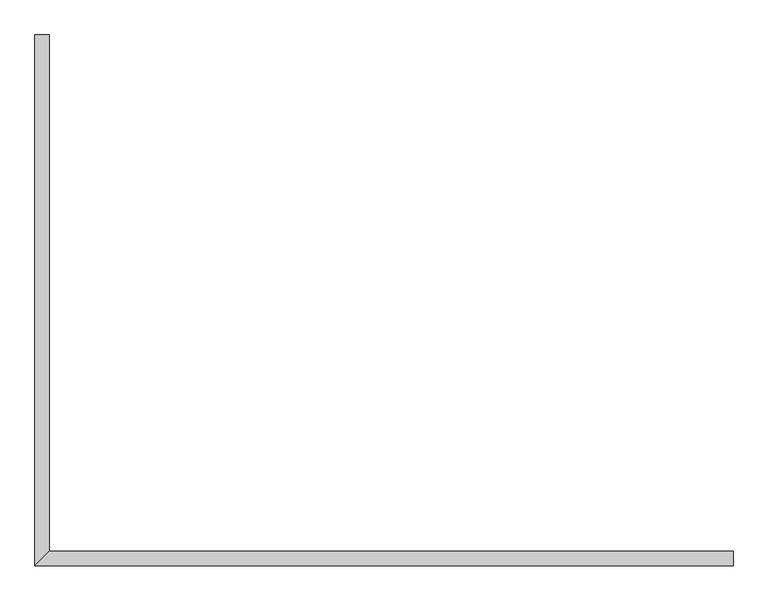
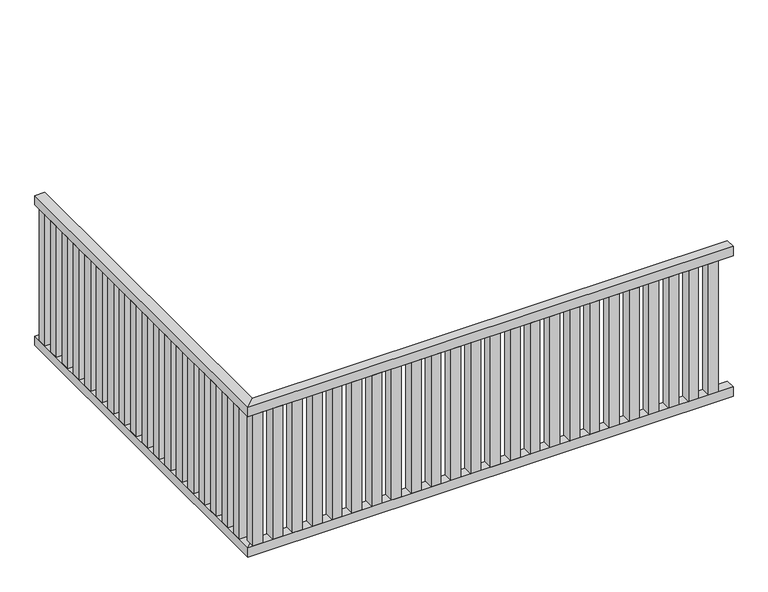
"""IFC4 building model written with IfcOpenShell, lengths in millimetres: railing geometry, creole porch rail."""

from ifc_helpers import new_model, si_unit, frame, origin, place, context, project, spatial, polyline, outline, extrude, faceted_brep, source, transform, mapped, element, save


def railing_5c745c90(model_context):
    return source(origin(), model_context, "Body", "SolidModel", [
        faceted_brep([(16886.7169554, -7091.5869756, 1981.2), (16886.7169554, -7142.3869756, 1981.2), (16886.7169554, -7142.3869756, 1930.4), (16886.7169554, -7091.5869756, 1930.4), (14448.3169554, -7091.5869756, 1981.2), (14397.5169554, -7142.3869756, 1981.2), (14397.5169554, -7142.3869756, 1930.4), (14448.3169554, -7091.5869756, 1930.4), (14448.3169554, -5250.0869756, 1981.2), (14448.3169554, -5250.0869756, 1930.4), (14397.5169554, -5250.0869756, 1930.4), (14397.5169554, -5250.0869756, 1981.2)], [[[0, 1, 2, 3]], [[1, 0, 4, 5]], [[2, 1, 5, 6]], [[3, 2, 6, 7]], [[0, 3, 7, 4]], [[8, 9, 10, 11]], [[5, 4, 8, 11]], [[6, 5, 11, 10]], [[7, 6, 10, 9]], [[4, 7, 9, 8]]]),
        faceted_brep([(16886.7169554, -7091.5869756, 1219.2), (16886.7169554, -7142.3869756, 1219.2), (16886.7169554, -7142.3869756, 1168.4), (16886.7169554, -7091.5869756, 1168.4), (14448.3169554, -7091.5869756, 1219.2), (14397.5169554, -7142.3869756, 1219.2), (14397.5169554, -7142.3869756, 1168.4), (14448.3169554, -7091.5869756, 1168.4), (14448.3169554, -5250.0869756, 1219.2), (14448.3169554, -5250.0869756, 1168.4), (14397.5169554, -5250.0869756, 1168.4), (14397.5169554, -5250.0869756, 1219.2)], [[[0, 1, 2, 3]], [[1, 0, 4, 5]], [[2, 1, 5, 6]], [[3, 2, 6, 7]], [[0, 3, 7, 4]], [[8, 9, 10, 11]], [[5, 4, 8, 11]], [[6, 5, 11, 10]], [[7, 6, 10, 9]], [[4, 7, 9, 8]]]),
        extrude(outline(polyline([(14448.3169554, -5338.9869756), (14397.5169554, -5338.9869756), (14397.5169554, -5288.1869756), (14448.3169554, -5288.1869756), (14448.3169554, -5338.9869756)])), frame((0.0, 0.0, 1219.2), z_axis=(0.0, 0.0, 1.0), x_axis=(1.0, 0.0, 0.0)), (0.0, 0.0, 1.0), 711.2),
        extrude(outline(polyline([(14448.3169554, -5440.5869756), (14397.5169554, -5440.5869756), (14397.5169554, -5389.7869756), (14448.3169554, -5389.7869756), (14448.3169554, -5440.5869756)])), frame((0.0, 0.0, 1219.2), z_axis=(0.0, 0.0, 1.0), x_axis=(1.0, 0.0, 0.0)), (0.0, 0.0, 1.0), 711.2),
        extrude(outline(polyline([(14448.3169554, -5542.1869756), (14397.5169554, -5542.1869756), (14397.5169554, -5491.3869756), (14448.3169554, -5491.3869756), (14448.3169554, -5542.1869756)])), frame((0.0, 0.0, 1219.2), z_axis=(0.0, 0.0, 1.0), x_axis=(1.0, 0.0, 0.0)), (0.0, 0.0, 1.0), 711.2),
        extrude(outline(polyline([(14448.3169554, -5643.7869756), (14397.5169554, -5643.7869756), (14397.5169554, -5592.9869756), (14448.3169554, -5592.9869756), (14448.3169554, -5643.7869756)])), frame((0.0, 0.0, 1219.2), z_axis=(0.0, 0.0, 1.0), x_axis=(1.0, 0.0, 0.0)), (0.0, 0.0, 1.0), 711.2),
        extrude(outline(polyline([(14448.3169554, -5745.3869756), (14397.5169554, -5745.3869756), (14397.5169554, -5694.5869756), (14448.3169554, -5694.5869756), (14448.3169554, -5745.3869756)])), frame((0.0, 0.0, 1219.2), z_axis=(0.0, 0.0, 1.0), x_axis=(1.0, 0.0, 0.0)), (0.0, 0.0, 1.0), 711.2),
        extrude(outline(polyline([(14448.3169554, -5846.9869756), (14397.5169554, -5846.9869756), (14397.5169554, -5796.1869756), (14448.3169554, -5796.1869756), (14448.3169554, -5846.9869756)])), frame((0.0, 0.0, 1219.2), z_axis=(0.0, 0.0, 1.0), x_axis=(1.0, 0.0, 0.0)), (0.0, 0.0, 1.0), 711.2),
        extrude(outline(polyline([(14448.3169554, -5948.5869756), (14397.5169554, -5948.5869756), (14397.5169554, -5897.7869756), (14448.3169554, -5897.7869756), (14448.3169554, -5948.5869756)])), frame((0.0, 0.0, 1219.2), z_axis=(0.0, 0.0, 1.0), x_axis=(1.0, 0.0, 0.0)), (0.0, 0.0, 1.0), 711.2),
        extrude(outline(polyline([(14448.3169554, -6050.1869756), (14397.5169554, -6050.1869756), (14397.5169554, -5999.3869756), (14448.3169554, -5999.3869756), (14448.3169554, -6050.1869756)])), frame((0.0, 0.0, 1219.2), z_axis=(0.0, 0.0, 1.0), x_axis=(1.0, 0.0, 0.0)), (0.0, 0.0, 1.0), 711.2),
        extrude(outline(polyline([(14448.3169554, -6151.7869756), (14397.5169554, -6151.7869756), (14397.5169554, -6100.9869756), (14448.3169554, -6100.9869756), (14448.3169554, -6151.7869756)])), frame((0.0, 0.0, 1219.2), z_axis=(0.0, 0.0, 1.0), x_axis=(1.0, 0.0, 0.0)), (0.0, 0.0, 1.0), 711.2),
        extrude(outline(polyline([(14448.3169554, -6253.3869756), (14397.5169554, -6253.3869756), (14397.5169554, -6202.5869756), (14448.3169554, -6202.5869756), (14448.3169554, -6253.3869756)])), frame((0.0, 0.0, 1219.2), z_axis=(0.0, 0.0, 1.0), x_axis=(1.0, 0.0, 0.0)), (0.0, 0.0, 1.0), 711.2),
        extrude(outline(polyline([(14448.3169554, -6354.9869756), (14397.5169554, -6354.9869756), (14397.5169554, -6304.1869756), (14448.3169554, -6304.1869756), (14448.3169554, -6354.9869756)])), frame((0.0, 0.0, 1219.2), z_axis=(0.0, 0.0, 1.0), x_axis=(1.0, 0.0, 0.0)), (0.0, 0.0, 1.0), 711.2),
        extrude(outline(polyline([(14448.3169554, -6456.5869756), (14397.5169554, -6456.5869756), (14397.5169554, -6405.7869756), (14448.3169554, -6405.7869756), (14448.3169554, -6456.5869756)])), frame((0.0, 0.0, 1219.2), z_axis=(0.0, 0.0, 1.0), x_axis=(1.0, 0.0, 0.0)), (0.0, 0.0, 1.0), 711.2),
        extrude(outline(polyline([(14448.3169554, -6558.1869756), (14397.5169554, -6558.1869756), (14397.5169554, -6507.3869756), (14448.3169554, -6507.3869756), (14448.3169554, -6558.1869756)])), frame((0.0, 0.0, 1219.2), z_axis=(0.0, 0.0, 1.0), x_axis=(1.0, 0.0, 0.0)), (0.0, 0.0, 1.0), 711.2),
        extrude(outline(polyline([(14448.3169554, -6659.7869756), (14397.5169554, -6659.7869756), (14397.5169554, -6608.9869756), (14448.3169554, -6608.9869756), (14448.3169554, -6659.7869756)])), frame((0.0, 0.0, 1219.2), z_axis=(0.0, 0.0, 1.0), x_axis=(1.0, 0.0, 0.0)), (0.0, 0.0, 1.0), 711.2),
        extrude(outline(polyline([(14448.3169554, -6761.3869756), (14397.5169554, -6761.3869756), (14397.5169554, -6710.5869756), (14448.3169554, -6710.5869756), (14448.3169554, -6761.3869756)])), frame((0.0, 0.0, 1219.2), z_axis=(0.0, 0.0, 1.0), x_axis=(1.0, 0.0, 0.0)), (0.0, 0.0, 1.0), 711.2),
        extrude(outline(polyline([(14448.3169554, -6862.9869756), (14397.5169554, -6862.9869756), (14397.5169554, -6812.1869756), (14448.3169554, -6812.1869756), (14448.3169554, -6862.9869756)])), frame((0.0, 0.0, 1219.2), z_axis=(0.0, 0.0, 1.0), x_axis=(1.0, 0.0, 0.0)), (0.0, 0.0, 1.0), 711.2),
        extrude(outline(polyline([(14448.3169554, -6964.5869756), (14397.5169554, -6964.5869756), (14397.5169554, -6913.7869756), (14448.3169554, -6913.7869756), (14448.3169554, -6964.5869756)])), frame((0.0, 0.0, 1219.2), z_axis=(0.0, 0.0, 1.0), x_axis=(1.0, 0.0, 0.0)), (0.0, 0.0, 1.0), 711.2),
        extrude(outline(polyline([(14448.3169554, -7066.1869756), (14397.5169554, -7066.1869756), (14397.5169554, -7015.3869756), (14448.3169554, -7015.3869756), (14448.3169554, -7066.1869756)])), frame((0.0, 0.0, 1219.2), z_axis=(0.0, 0.0, 1.0), x_axis=(1.0, 0.0, 0.0)), (0.0, 0.0, 1.0), 711.2),
        extrude(outline(polyline([(14473.7169554, -7091.5869756), (14473.7169554, -7142.3869756), (14422.9169554, -7142.3869756), (14422.9169554, -7091.5869756), (14473.7169554, -7091.5869756)])), frame((0.0, 0.0, 1219.2), z_axis=(0.0, 0.0, 1.0), x_axis=(1.0, 0.0, 0.0)), (0.0, 0.0, 1.0), 711.2),
        extrude(outline(polyline([(14575.3169554, -7091.5869756), (14575.3169554, -7142.3869756), (14524.5169554, -7142.3869756), (14524.5169554, -7091.5869756), (14575.3169554, -7091.5869756)])), frame((0.0, 0.0, 1219.2), z_axis=(0.0, 0.0, 1.0), x_axis=(1.0, 0.0, 0.0)), (0.0, 0.0, 1.0), 711.2),
        extrude(outline(polyline([(14676.9169554, -7091.5869756), (14676.9169554, -7142.3869756), (14626.1169554, -7142.3869756), (14626.1169554, -7091.5869756), (14676.9169554, -7091.5869756)])), frame((0.0, 0.0, 1219.2), z_axis=(0.0, 0.0, 1.0), x_axis=(1.0, 0.0, 0.0)), (0.0, 0.0, 1.0), 711.2),
        extrude(outline(polyline([(14778.5169554, -7091.5869756), (14778.5169554, -7142.3869756), (14727.7169554, -7142.3869756), (14727.7169554, -7091.5869756), (14778.5169554, -7091.5869756)])), frame((0.0, 0.0, 1219.2), z_axis=(0.0, 0.0, 1.0), x_axis=(1.0, 0.0, 0.0)), (0.0, 0.0, 1.0), 711.2),
        extrude(outline(polyline([(14880.1169554, -7091.5869756), (14880.1169554, -7142.3869756), (14829.3169554, -7142.3869756), (14829.3169554, -7091.5869756), (14880.1169554, -7091.5869756)])), frame((0.0, 0.0, 1219.2), z_axis=(0.0, 0.0, 1.0), x_axis=(1.0, 0.0, 0.0)), (0.0, 0.0, 1.0), 711.2),
        extrude(outline(polyline([(14981.7169554, -7091.5869756), (14981.7169554, -7142.3869756), (14930.9169554, -7142.3869756), (14930.9169554, -7091.5869756), (14981.7169554, -7091.5869756)])), frame((0.0, 0.0, 1219.2), z_axis=(0.0, 0.0, 1.0), x_axis=(1.0, 0.0, 0.0)), (0.0, 0.0, 1.0), 711.2),
        extrude(outline(polyline([(15083.3169554, -7091.5869756), (15083.3169554, -7142.3869756), (15032.5169554, -7142.3869756), (15032.5169554, -7091.5869756), (15083.3169554, -7091.5869756)])), frame((0.0, 0.0, 1219.2), z_axis=(0.0, 0.0, 1.0), x_axis=(1.0, 0.0, 0.0)), (0.0, 0.0, 1.0), 711.2),
        extrude(outline(polyline([(15184.9169554, -7091.5869756), (15184.9169554, -7142.3869756), (15134.1169554, -7142.3869756), (15134.1169554, -7091.5869756), (15184.9169554, -7091.5869756)])), frame((0.0, 0.0, 1219.2), z_axis=(0.0, 0.0, 1.0), x_axis=(1.0, 0.0, 0.0)), (0.0, 0.0, 1.0), 711.2),
        extrude(outline(polyline([(15286.5169554, -7091.5869756), (15286.5169554, -7142.3869756), (15235.7169554, -7142.3869756), (15235.7169554, -7091.5869756), (15286.5169554, -7091.5869756)])), frame((0.0, 0.0, 1219.2), z_axis=(0.0, 0.0, 1.0), x_axis=(1.0, 0.0, 0.0)), (0.0, 0.0, 1.0), 711.2),
        extrude(outline(polyline([(15388.1169554, -7091.5869756), (15388.1169554, -7142.3869756), (15337.3169554, -7142.3869756), (15337.3169554, -7091.5869756), (15388.1169554, -7091.5869756)])), frame((0.0, 0.0, 1219.2), z_axis=(0.0, 0.0, 1.0), x_axis=(1.0, 0.0, 0.0)), (0.0, 0.0, 1.0), 711.2),
        extrude(outline(polyline([(15489.7169554, -7091.5869756), (15489.7169554, -7142.3869756), (15438.9169554, -7142.3869756), (15438.9169554, -7091.5869756), (15489.7169554, -7091.5869756)])), frame((0.0, 0.0, 1219.2), z_axis=(0.0, 0.0, 1.0), x_axis=(1.0, 0.0, 0.0)), (0.0, 0.0, 1.0), 711.2),
        extrude(outline(polyline([(15591.3169554, -7091.5869756), (15591.3169554, -7142.3869756), (15540.5169554, -7142.3869756), (15540.5169554, -7091.5869756), (15591.3169554, -7091.5869756)])), frame((0.0, 0.0, 1219.2), z_axis=(0.0, 0.0, 1.0), x_axis=(1.0, 0.0, 0.0)), (0.0, 0.0, 1.0), 711.2),
        extrude(outline(polyline([(15692.9169554, -7091.5869756), (15692.9169554, -7142.3869756), (15642.1169554, -7142.3869756), (15642.1169554, -7091.5869756), (15692.9169554, -7091.5869756)])), frame((0.0, 0.0, 1219.2), z_axis=(0.0, 0.0, 1.0), x_axis=(1.0, 0.0, 0.0)), (0.0, 0.0, 1.0), 711.2),
        extrude(outline(polyline([(15794.5169554, -7091.5869756), (15794.5169554, -7142.3869756), (15743.7169554, -7142.3869756), (15743.7169554, -7091.5869756), (15794.5169554, -7091.5869756)])), frame((0.0, 0.0, 1219.2), z_axis=(0.0, 0.0, 1.0), x_axis=(1.0, 0.0, 0.0)), (0.0, 0.0, 1.0), 711.2),
        extrude(outline(polyline([(15896.1169554, -7091.5869756), (15896.1169554, -7142.3869756), (15845.3169554, -7142.3869756), (15845.3169554, -7091.5869756), (15896.1169554, -7091.5869756)])), frame((0.0, 0.0, 1219.2), z_axis=(0.0, 0.0, 1.0), x_axis=(1.0, 0.0, 0.0)), (0.0, 0.0, 1.0), 711.2),
        extrude(outline(polyline([(15997.7169554, -7091.5869756), (15997.7169554, -7142.3869756), (15946.9169554, -7142.3869756), (15946.9169554, -7091.5869756), (15997.7169554, -7091.5869756)])), frame((0.0, 0.0, 1219.2), z_axis=(0.0, 0.0, 1.0), x_axis=(1.0, 0.0, 0.0)), (0.0, 0.0, 1.0), 711.2),
        extrude(outline(polyline([(16099.3169554, -7091.5869756), (16099.3169554, -7142.3869756), (16048.5169554, -7142.3869756), (16048.5169554, -7091.5869756), (16099.3169554, -7091.5869756)])), frame((0.0, 0.0, 1219.2), z_axis=(0.0, 0.0, 1.0), x_axis=(1.0, 0.0, 0.0)), (0.0, 0.0, 1.0), 711.2),
        extrude(outline(polyline([(16200.9169554, -7091.5869756), (16200.9169554, -7142.3869756), (16150.1169554, -7142.3869756), (16150.1169554, -7091.5869756), (16200.9169554, -7091.5869756)])), frame((0.0, 0.0, 1219.2), z_axis=(0.0, 0.0, 1.0), x_axis=(1.0, 0.0, 0.0)), (0.0, 0.0, 1.0), 711.2),
        extrude(outline(polyline([(16302.5169554, -7091.5869756), (16302.5169554, -7142.3869756), (16251.7169554, -7142.3869756), (16251.7169554, -7091.5869756), (16302.5169554, -7091.5869756)])), frame((0.0, 0.0, 1219.2), z_axis=(0.0, 0.0, 1.0), x_axis=(1.0, 0.0, 0.0)), (0.0, 0.0, 1.0), 711.2),
        extrude(outline(polyline([(16404.1169554, -7091.5869756), (16404.1169554, -7142.3869756), (16353.3169554, -7142.3869756), (16353.3169554, -7091.5869756), (16404.1169554, -7091.5869756)])), frame((0.0, 0.0, 1219.2), z_axis=(0.0, 0.0, 1.0), x_axis=(1.0, 0.0, 0.0)), (0.0, 0.0, 1.0), 711.2),
        extrude(outline(polyline([(16505.7169554, -7091.5869756), (16505.7169554, -7142.3869756), (16454.9169554, -7142.3869756), (16454.9169554, -7091.5869756), (16505.7169554, -7091.5869756)])), frame((0.0, 0.0, 1219.2), z_axis=(0.0, 0.0, 1.0), x_axis=(1.0, 0.0, 0.0)), (0.0, 0.0, 1.0), 711.2),
        extrude(outline(polyline([(16607.3169554, -7091.5869756), (16607.3169554, -7142.3869756), (16556.5169554, -7142.3869756), (16556.5169554, -7091.5869756), (16607.3169554, -7091.5869756)])), frame((0.0, 0.0, 1219.2), z_axis=(0.0, 0.0, 1.0), x_axis=(1.0, 0.0, 0.0)), (0.0, 0.0, 1.0), 711.2),
        extrude(outline(polyline([(16708.9169554, -7091.5869756), (16708.9169554, -7142.3869756), (16658.1169554, -7142.3869756), (16658.1169554, -7091.5869756), (16708.9169554, -7091.5869756)])), frame((0.0, 0.0, 1219.2), z_axis=(0.0, 0.0, 1.0), x_axis=(1.0, 0.0, 0.0)), (0.0, 0.0, 1.0), 711.2),
        extrude(outline(polyline([(16810.5169554, -7091.5869756), (16810.5169554, -7142.3869756), (16759.7169554, -7142.3869756), (16759.7169554, -7091.5869756), (16810.5169554, -7091.5869756)])), frame((0.0, 0.0, 1219.2), z_axis=(0.0, 0.0, 1.0), x_axis=(1.0, 0.0, 0.0)), (0.0, 0.0, 1.0), 711.2),
    ])


if __name__ == "__main__":
    model = new_model("IFC4")
    model_context = context("Model", 3, world=origin())
    ifc_project = project(units=[si_unit("LENGTHUNIT", "METRE", prefix="MILLI")], contexts=[model_context])
    site = spatial("IfcSite", under=ifc_project)
    building = spatial("IfcBuilding", under=site)
    placement = place(None, origin())
    railing_shape = railing_5c745c90(model_context)
    element("IfcRailing", 1, ObjectType="creole porch rail", at=placement, inside=building, context=model_context, shape_type="MappedRepresentation", body=[
        mapped(railing_shape, transform((0.0, 0.0, 0.0), x_axis=(1.0, 0.0, 0.0), y_axis=(0.0, 1.0, 0.0), z_axis=(0.0, 0.0, 1.0))),
    ])
    save(model, "model.ifc")
